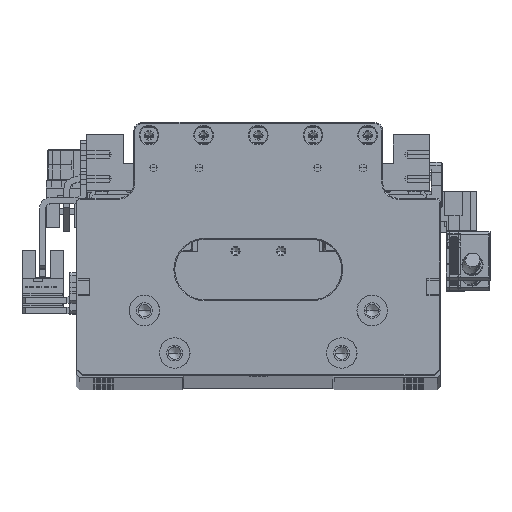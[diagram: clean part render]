
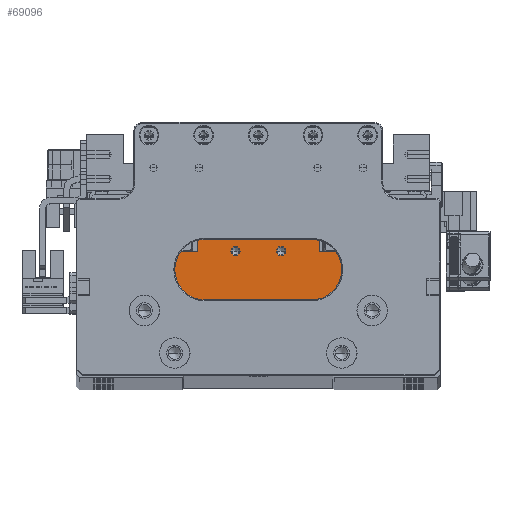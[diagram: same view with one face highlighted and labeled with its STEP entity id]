
A CAD part, top view. The second image highlights one B-rep face of the part: STEP entity #69096.
In plain terms, the highlighted planar face has unit normal (0, 0, 1).
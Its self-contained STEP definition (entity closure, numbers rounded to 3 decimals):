
#591 = CARTESIAN_POINT ( 'NONE',  ( 18.306, -1.296, 411.036 ) ) ;
#2737 = ORIENTED_EDGE ( 'NONE', *, *, #40971, .F. ) ;
#3404 = CIRCLE ( 'NONE', #141090, 1.525 ) ;
#4438 = EDGE_CURVE ( 'NONE', #128308, #90342, #72936, .T. ) ;
#5961 = VECTOR ( 'NONE', #31959, 1000. ) ;
#6515 = CARTESIAN_POINT ( 'NONE',  ( 7.331, 6.304, 411.036 ) ) ;
#7371 = VECTOR ( 'NONE', #32495, 1000. ) ;
#8111 = FACE_BOUND ( 'NONE', #30868, .T. ) ;
#8193 = VECTOR ( 'NONE', #104604, 1000. ) ;
#8483 = EDGE_CURVE ( 'NONE', #26026, #92696, #145860, .T. ) ;
#9482 = CARTESIAN_POINT ( 'NONE',  ( -9.194, -12.996, 411.036 ) ) ;
#11740 = FACE_OUTER_BOUND ( 'NONE', #49365, .T. ) ;
#13236 = DIRECTION ( 'NONE',  ( 0., 1., 0. ) ) ;
#16333 = AXIS2_PLACEMENT_3D ( 'NONE', #133605, #64829, #145156 ) ;
#20418 = CARTESIAN_POINT ( 'NONE',  ( 28.206, -1.296, 411.036 ) ) ;
#24619 = CIRCLE ( 'NONE', #16333, 1.525 ) ;
#26026 = VERTEX_POINT ( 'NONE', #78660 ) ;
#26339 = LINE ( 'NONE', #132552, #144875 ) ;
#30267 = CARTESIAN_POINT ( 'NONE',  ( 4.281, 6.304, 411.036 ) ) ;
#30868 = EDGE_LOOP ( 'NONE', ( #131780, #100464 ) ) ;
#31959 = DIRECTION ( 'NONE',  ( 0., -1., 0. ) ) ;
#32324 = VERTEX_POINT ( 'NONE', #136735 ) ;
#32495 = DIRECTION ( 'NONE',  ( 0., 1., 0. ) ) ;
#33840 = EDGE_CURVE ( 'NONE', #90342, #147516, #53222, .T. ) ;
#35109 = CARTESIAN_POINT ( 'NONE',  ( -10.719, 6.304, 411.036 ) ) ;
#37754 = LINE ( 'NONE', #139280, #41353 ) ;
#40971 = EDGE_CURVE ( 'NONE', #32324, #41713, #26339, .T. ) ;
#41353 = VECTOR ( 'NONE', #13236, 1000. ) ;
#41713 = VERTEX_POINT ( 'NONE', #124341 ) ;
#43812 = CARTESIAN_POINT ( 'NONE',  ( 5.806, 6.304, 411.036 ) ) ;
#48966 = AXIS2_PLACEMENT_3D ( 'NONE', #53923, #65452, #145765 ) ;
#49365 = EDGE_LOOP ( 'NONE', ( #2737, #134566, #70521, #148214, #83125, #100424, #147107, #74454 ) ) ;
#50391 = CARTESIAN_POINT ( 'NONE',  ( -21.694, 10.204, 411.036 ) ) ;
#53222 = LINE ( 'NONE', #591, #110679 ) ;
#53414 = VERTEX_POINT ( 'NONE', #35109 ) ;
#53923 = CARTESIAN_POINT ( 'NONE',  ( -9.194, -1.296, 411.036 ) ) ;
#54150 = CIRCLE ( 'NONE', #54474, 1.525 ) ;
#54474 = AXIS2_PLACEMENT_3D ( 'NONE', #128340, #59533, #139856 ) ;
#55315 = DIRECTION ( 'NONE',  ( 1., 0., 0. ) ) ;
#59533 = DIRECTION ( 'NONE',  ( 0., 0., 1. ) ) ;
#60193 = EDGE_CURVE ( 'NONE', #53414, #114707, #24619, .T. ) ;
#62105 = VERTEX_POINT ( 'NONE', #30267 ) ;
#64829 = DIRECTION ( 'NONE',  ( 0., 0., 1. ) ) ;
#65171 = DIRECTION ( 'NONE',  ( 0., 0., 1. ) ) ;
#65452 = DIRECTION ( 'NONE',  ( 0., 0., -1. ) ) ;
#65540 = EDGE_CURVE ( 'NONE', #26026, #32324, #37754, .T. ) ;
#67078 = LINE ( 'NONE', #20418, #5961 ) ;
#69096 = ADVANCED_FACE ( 'NONE', ( #11740, #8111, #96134 ), #134211, .F. ) ;
#69403 = DIRECTION ( 'NONE',  ( 0., -1., 0. ) ) ;
#70521 = ORIENTED_EDGE ( 'NONE', *, *, #8483, .T. ) ;
#70709 = CARTESIAN_POINT ( 'NONE',  ( 18.306, 10.204, 411.036 ) ) ;
#72936 = LINE ( 'NONE', #139250, #8193 ) ;
#73676 = CARTESIAN_POINT ( 'NONE',  ( 28.206, -12.996, 411.036 ) ) ;
#74454 = ORIENTED_EDGE ( 'NONE', *, *, #87461, .F. ) ;
#78660 = CARTESIAN_POINT ( 'NONE',  ( -31.594, -12.996, 411.036 ) ) ;
#79296 = EDGE_CURVE ( 'NONE', #114707, #53414, #113079, .T. ) ;
#83125 = ORIENTED_EDGE ( 'NONE', *, *, #120058, .F. ) ;
#86008 = ORIENTED_EDGE ( 'NONE', *, *, #60193, .F. ) ;
#86710 = VECTOR ( 'NONE', #146643, 1000. ) ;
#87423 = ORIENTED_EDGE ( 'NONE', *, *, #79296, .F. ) ;
#87461 = EDGE_CURVE ( 'NONE', #41713, #128308, #99042, .T. ) ;
#87634 = EDGE_CURVE ( 'NONE', #89985, #62105, #54150, .T. ) ;
#89369 = CARTESIAN_POINT ( 'NONE',  ( -9.194, 6.204, 411.036 ) ) ;
#89985 = VERTEX_POINT ( 'NONE', #6515 ) ;
#90342 = VERTEX_POINT ( 'NONE', #70709 ) ;
#92696 = VERTEX_POINT ( 'NONE', #73676 ) ;
#94028 = VERTEX_POINT ( 'NONE', #117702 ) ;
#96134 = FACE_BOUND ( 'NONE', #116520, .T. ) ;
#98400 = DIRECTION ( 'NONE',  ( 1., 0., 0. ) ) ;
#98664 = CARTESIAN_POINT ( 'NONE',  ( -7.669, 6.304, 411.036 ) ) ;
#98927 = CARTESIAN_POINT ( 'NONE',  ( 18.306, 6.204, 411.036 ) ) ;
#99042 = LINE ( 'NONE', #112828, #7371 ) ;
#100424 = ORIENTED_EDGE ( 'NONE', *, *, #33840, .F. ) ;
#100464 = ORIENTED_EDGE ( 'NONE', *, *, #138541, .F. ) ;
#104604 = DIRECTION ( 'NONE',  ( 1., 0., 0. ) ) ;
#110679 = VECTOR ( 'NONE', #69403, 1000. ) ;
#111738 = VECTOR ( 'NONE', #124543, 1000. ) ;
#112828 = CARTESIAN_POINT ( 'NONE',  ( -21.694, -1.296, 411.036 ) ) ;
#113079 = CIRCLE ( 'NONE', #121952, 1.525 ) ;
#114707 = VERTEX_POINT ( 'NONE', #98664 ) ;
#116520 = EDGE_LOOP ( 'NONE', ( #87423, #86008 ) ) ;
#117277 = LINE ( 'NONE', #89369, #86710 ) ;
#117702 = CARTESIAN_POINT ( 'NONE',  ( 28.206, 6.204, 411.036 ) ) ;
#120058 = EDGE_CURVE ( 'NONE', #147516, #94028, #117277, .T. ) ;
#121952 = AXIS2_PLACEMENT_3D ( 'NONE', #133948, #65171, #145504 ) ;
#124099 = DIRECTION ( 'NONE',  ( 0., 0., 1. ) ) ;
#124341 = CARTESIAN_POINT ( 'NONE',  ( -21.694, 6.204, 411.036 ) ) ;
#124543 = DIRECTION ( 'NONE',  ( 1., 0., 0. ) ) ;
#128308 = VERTEX_POINT ( 'NONE', #50391 ) ;
#128340 = CARTESIAN_POINT ( 'NONE',  ( 5.806, 6.304, 411.036 ) ) ;
#129399 = EDGE_CURVE ( 'NONE', #94028, #92696, #67078, .T. ) ;
#131780 = ORIENTED_EDGE ( 'NONE', *, *, #87634, .F. ) ;
#132552 = CARTESIAN_POINT ( 'NONE',  ( -9.194, 6.204, 411.036 ) ) ;
#133605 = CARTESIAN_POINT ( 'NONE',  ( -9.194, 6.304, 411.036 ) ) ;
#133948 = CARTESIAN_POINT ( 'NONE',  ( -9.194, 6.304, 411.036 ) ) ;
#134211 = PLANE ( 'NONE',  #48966 ) ;
#134566 = ORIENTED_EDGE ( 'NONE', *, *, #65540, .F. ) ;
#136735 = CARTESIAN_POINT ( 'NONE',  ( -31.594, 6.204, 411.036 ) ) ;
#138541 = EDGE_CURVE ( 'NONE', #62105, #89985, #3404, .T. ) ;
#139250 = CARTESIAN_POINT ( 'NONE',  ( -9.194, 10.204, 411.036 ) ) ;
#139280 = CARTESIAN_POINT ( 'NONE',  ( -31.594, -1.296, 411.036 ) ) ;
#139856 = DIRECTION ( 'NONE',  ( 1., 0., 0. ) ) ;
#141090 = AXIS2_PLACEMENT_3D ( 'NONE', #43812, #124099, #55315 ) ;
#144875 = VECTOR ( 'NONE', #98400, 1000. ) ;
#145156 = DIRECTION ( 'NONE',  ( 1., 0., 0. ) ) ;
#145504 = DIRECTION ( 'NONE',  ( 1., 0., 0. ) ) ;
#145765 = DIRECTION ( 'NONE',  ( -1., 0., 0. ) ) ;
#145860 = LINE ( 'NONE', #9482, #111738 ) ;
#146643 = DIRECTION ( 'NONE',  ( 1., 0., 0. ) ) ;
#147107 = ORIENTED_EDGE ( 'NONE', *, *, #4438, .F. ) ;
#147516 = VERTEX_POINT ( 'NONE', #98927 ) ;
#148214 = ORIENTED_EDGE ( 'NONE', *, *, #129399, .F. ) ;
